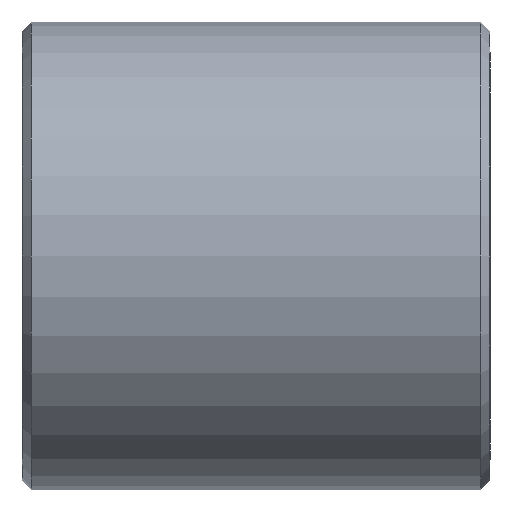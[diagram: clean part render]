
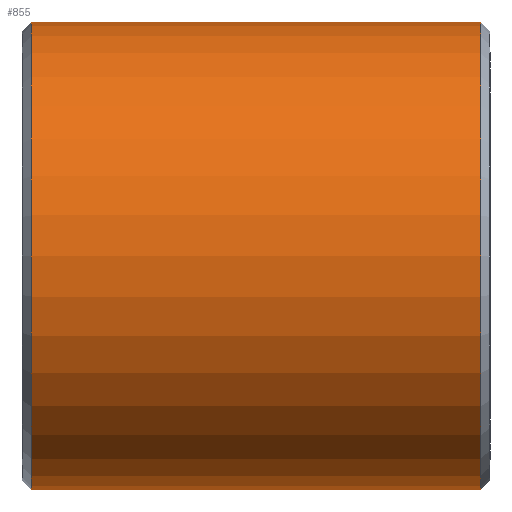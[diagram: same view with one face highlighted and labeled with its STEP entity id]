
A CAD part, left-side view. The second image highlights one B-rep face of the part: STEP entity #855.
In plain terms, the highlighted cylindrical face has radius 12.5 mm (diameter 25 mm), a partial arc.
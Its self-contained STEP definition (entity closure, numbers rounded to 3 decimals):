
#20 = DIRECTION ( 'NONE',  ( 0., 1., 0. ) ) ;
#84 = CARTESIAN_POINT ( 'NONE',  ( 0., 65.513, 12.5 ) ) ;
#136 = DIRECTION ( 'NONE',  ( 0., 0., -1. ) ) ;
#146 = DIRECTION ( 'NONE',  ( 0., 0., 1. ) ) ;
#233 = ORIENTED_EDGE ( 'NONE', *, *, #787, .F. ) ;
#249 = EDGE_LOOP ( 'NONE', ( #233, #843, #828, #462 ) ) ;
#255 = DIRECTION ( 'NONE',  ( 0., 1., 0. ) ) ;
#266 = EDGE_CURVE ( 'NONE', #1299, #714, #1098, .T. ) ;
#267 = CARTESIAN_POINT ( 'NONE',  ( 0., -23., -12.5 ) ) ;
#296 = DIRECTION ( 'NONE',  ( 0., 1., 0. ) ) ;
#442 = AXIS2_PLACEMENT_3D ( 'NONE', #883, #20, #136 ) ;
#462 = ORIENTED_EDGE ( 'NONE', *, *, #1104, .T. ) ;
#508 = AXIS2_PLACEMENT_3D ( 'NONE', #1105, #577, #146 ) ;
#545 = CARTESIAN_POINT ( 'NONE',  ( 0., 65.513, -12.5 ) ) ;
#577 = DIRECTION ( 'NONE',  ( 0., 1., 0. ) ) ;
#585 = CYLINDRICAL_SURFACE ( 'NONE', #508, 12.5 ) ;
#632 = VERTEX_POINT ( 'NONE', #1359 ) ;
#706 = DIRECTION ( 'NONE',  ( 0., 0., 1. ) ) ;
#714 = VERTEX_POINT ( 'NONE', #866 ) ;
#723 = CARTESIAN_POINT ( 'NONE',  ( 0., -23., 12.5 ) ) ;
#730 = LINE ( 'NONE', #545, #1317 ) ;
#787 = EDGE_CURVE ( 'NONE', #1068, #632, #730, .T. ) ;
#803 = DIRECTION ( 'NONE',  ( 0., -1., 0. ) ) ;
#828 = ORIENTED_EDGE ( 'NONE', *, *, #266, .T. ) ;
#829 = EDGE_CURVE ( 'NONE', #1068, #1299, #1009, .T. ) ;
#843 = ORIENTED_EDGE ( 'NONE', *, *, #829, .T. ) ;
#855 = ADVANCED_FACE ( 'NONE', ( #973 ), #585, .T. ) ;
#866 = CARTESIAN_POINT ( 'NONE',  ( 0., 1., 12.5 ) ) ;
#883 = CARTESIAN_POINT ( 'NONE',  ( 0., -23., 0. ) ) ;
#973 = FACE_OUTER_BOUND ( 'NONE', #249, .T. ) ;
#1002 = CARTESIAN_POINT ( 'NONE',  ( 0., 1., 0. ) ) ;
#1009 = CIRCLE ( 'NONE', #442, 12.5 ) ;
#1068 = VERTEX_POINT ( 'NONE', #267 ) ;
#1098 = LINE ( 'NONE', #84, #1231 ) ;
#1104 = EDGE_CURVE ( 'NONE', #714, #632, #1287, .T. ) ;
#1105 = CARTESIAN_POINT ( 'NONE',  ( 0., 65.513, 0. ) ) ;
#1231 = VECTOR ( 'NONE', #296, 1000. ) ;
#1287 = CIRCLE ( 'NONE', #1295, 12.5 ) ;
#1295 = AXIS2_PLACEMENT_3D ( 'NONE', #1002, #803, #706 ) ;
#1299 = VERTEX_POINT ( 'NONE', #723 ) ;
#1317 = VECTOR ( 'NONE', #255, 1000. ) ;
#1359 = CARTESIAN_POINT ( 'NONE',  ( 0., 1., -12.5 ) ) ;
